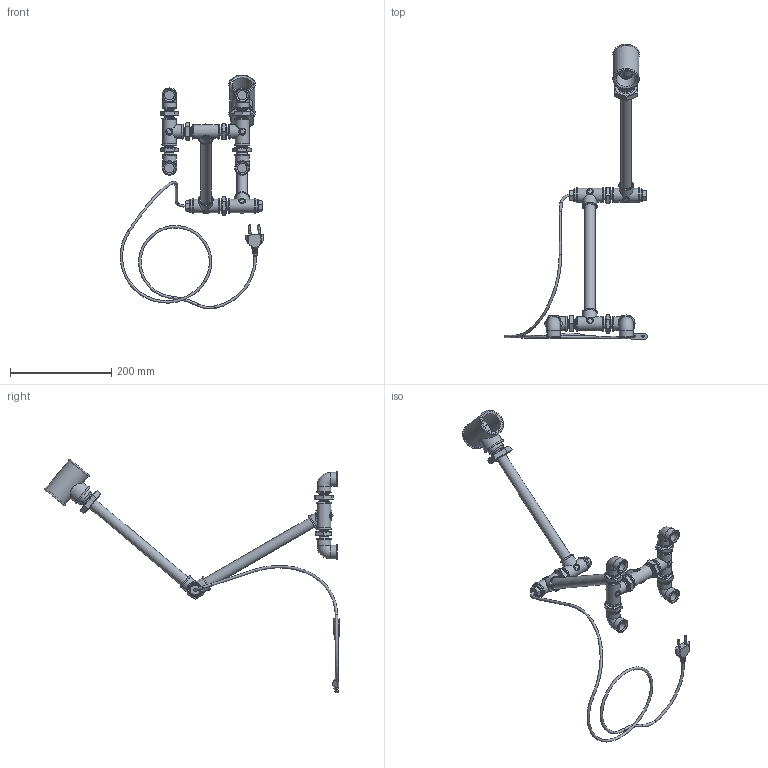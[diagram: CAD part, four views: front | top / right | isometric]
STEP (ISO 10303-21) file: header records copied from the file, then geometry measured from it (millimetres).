
FILE_DESCRIPTION( ( 'STEP AP214' ), '1' );
FILE_NAME( 'G:/Pipe_Fitting_Lamp.stp', ' ', ( ' ' ), ( ' ' ), 'PSStep 15.0.47', 'PARTsolutions', ' ' );
FILE_SCHEMA( ( 'AUTOMOTIVE_DESIGN { 1 0 10303 214 1 1 1 1 }' ) );
Length unit declared in the file: millimetre
Products named in the file (12): Pipe/Fitting Lamp; _Angle DIN 1569 W-G 1/2; HI_Double nipple DIN 1566 G 1/2 A; _T-piece DIN 1567 G 1/2; _pipe1; HI_Locking screw DIN 5586 B-G1/2A; HI_Reducing nipple DIN 1565 G 1 AxG 1/2; _Socket; HI_Lamp DIN 49812-1 C1-230-15-E14; HI_Reducing-T DIN 1567 G1 1/4xG 1; _cable; _Plug
Assembly tree (26 placements, depth 2):
  Pipe/Fitting Lamp
    _Angle DIN 1569 W-G 1/2  x4
    HI_Double nipple DIN 1566 G 1/2 A  x7
    _T-piece DIN 1567 G 1/2  x5
    _pipe1  x2
    HI_Locking screw DIN 5586 B-G1/2A  x2
    HI_Reducing nipple DIN 1565 G 1 AxG 1/2
    _Socket
    HI_Lamp DIN 49812-1 C1-230-15-E14
    HI_Reducing-T DIN 1567 G1 1/4xG 1
    _cable
    _Plug
Bounding box: 284.16 x 584.13 x 462.81 mm (x, y, z)
Volume: 497994 mm3; surface area: 254996.5 mm2
Topology: 26 solids, 26 shells, 754 faces, 1746 edges, 1081 vertices
Faces by surface type: cylinder 293, plane 281, cone 109, torus 66, sphere 3, bspline 2
Full cylindrical faces by diameter (mm): 4 x2, 4.2 x4, 5 x3, 5.6 x2, 8.334 x1, 8.4 x1, 12.56 x1, 13.5 x7, 13.89 x1, 14.585 x1, 16 x3, 17.699 x14, 18 x2, 18.631 x19, 20.8 x2, 20.955 x18, 21.939 x2, 22 x1, 26 x2, 27 x18, 28.776 x1, 30.291 x1, 33.249 x1, 38.952 x1, 40.5 x1, 50 x1
Entity records: 12020 total; most frequent: CARTESIAN_POINT 2521, DIRECTION 1424, ORIENTED_EDGE 1190, EDGE_CURVE 595, AXIS2_PLACEMENT_3D 592, EDGE_LOOP 473, VERTEX_POINT 451, FACE_OUTER_BOUND 393
